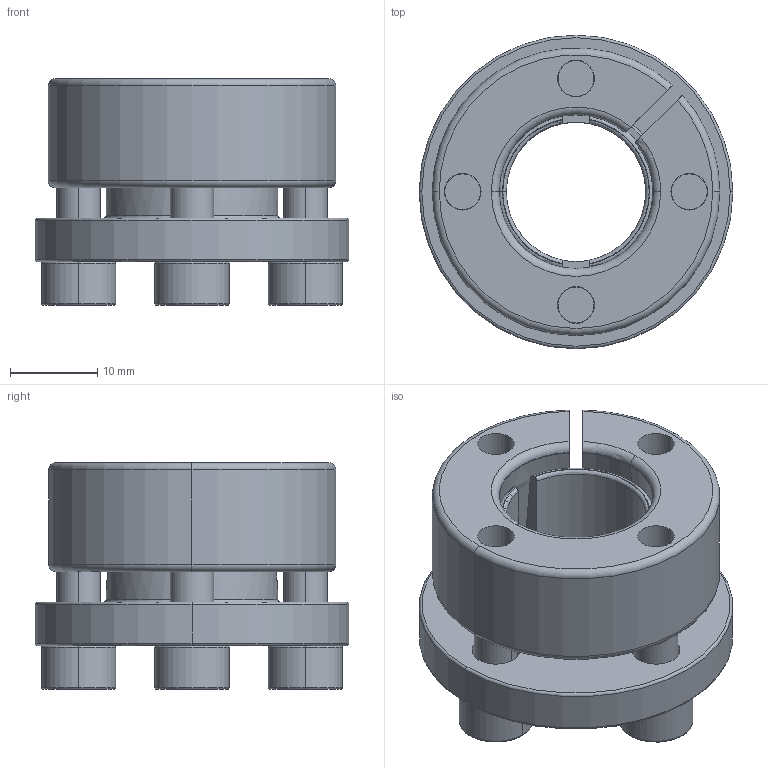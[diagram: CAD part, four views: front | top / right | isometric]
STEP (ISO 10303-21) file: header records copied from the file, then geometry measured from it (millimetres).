
FILE_DESCRIPTION (( 'STEP AP203' ), '1' );
FILE_NAME ('SAPL-B-16-33.STEP', '2013-07-11T09:58:28', ( 'MYCOM' ), ( '' ), 'SwSTEP 2.0', 'SolidWorks 2012', '' );
FILE_SCHEMA (( 'CONFIG_CONTROL_DESIGN' ));
Length unit declared in the file: millimetre
Products named in the file (1): SAPL-B-16-33
Bounding box: 36 x 36 x 26 mm (x, y, z)
Volume: 12907.5 mm3; surface area: 7857.1 mm2
Topology: 1 solids, 1 shells, 214 faces, 520 edges, 308 vertices
Faces by surface type: plane 74, torus 53, cylinder 53, cone 34
Entity records: 6448 total; most frequent: CARTESIAN_POINT 1231, DIRECTION 1181, ORIENTED_EDGE 1024, EDGE_CURVE 512, AXIS2_PLACEMENT_3D 490, VERTEX_POINT 308, CIRCLE 275, EDGE_LOOP 240
